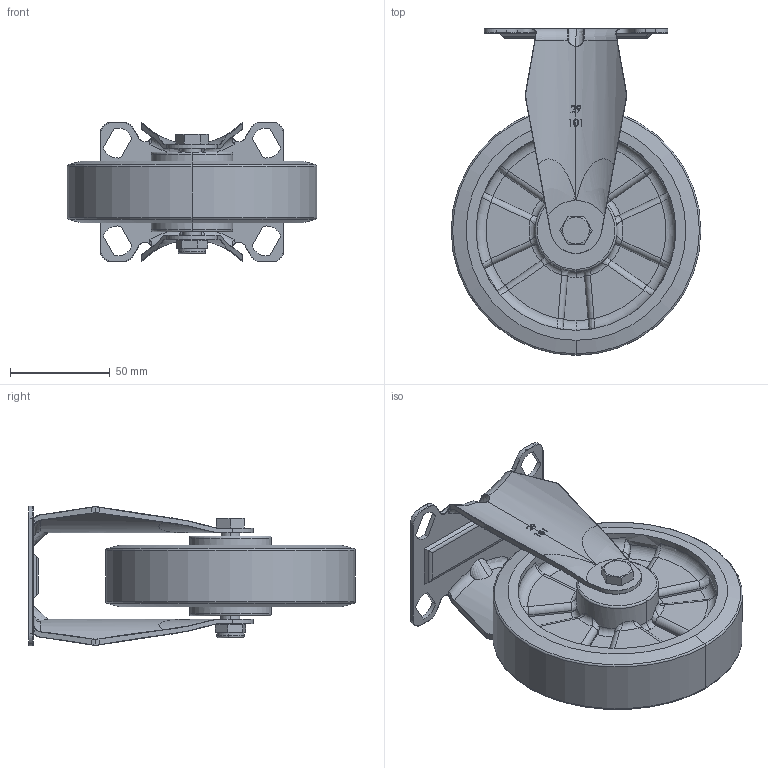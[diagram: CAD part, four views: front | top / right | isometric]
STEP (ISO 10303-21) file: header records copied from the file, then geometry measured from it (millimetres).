
FILE_DESCRIPTION (( 'STEP AP203' ), '1' );
FILE_NAME ('4112905001012.STEP', '2024-08-01T01:17:29', ( '' ), ( '' ), 'SwSTEP 2.0', 'SolidWorks 2019', '' );
FILE_SCHEMA (( 'CONFIG_CONTROL_DESIGN' ));
Length unit declared in the file: millimetre
Products named in the file (5): 4112905001012; 242020954001 4''''.5''''儀器.高級活動用車心 20240124A8; 245020900003 尼龍螺帽  3 8''''(對邊14x7L)_100406; 1235050042 W全效輪組(Resolute) 5''''(125x31-珠光深灰6202)平-42寬; 32129010500005 29系列固定架-電鍍 5''''(29-101)斜孔(孔距49x74.5)+2.3t
Assembly tree (4 placements, depth 2):
  4112905001012
    242020954001 4''''.5''''儀器.高級活動用車心 20240124A8
    245020900003 尼龍螺帽  3 8''''(對邊14x7L)_100406
    32129010500005 29系列固定架-電鍍 5''''(29-101)斜孔(孔距49x74.5)+2.3t
    1235050042 W全效輪組(Resolute) 5''''(125x31-珠光深灰6202)平-42寬
Bounding box: 125 x 163.5 x 70 mm (x, y, z)
Volume: 303087.8 mm3; surface area: 78423.7 mm2
Topology: 4 solids, 4 shells, 532 faces, 1373 edges, 840 vertices
Faces by surface type: bspline 152, cylinder 142, plane 108, torus 104, cone 16, sphere 10
Entity records: 27103 total; most frequent: CARTESIAN_POINT 14986, ORIENTED_EDGE 2698, DIRECTION 2136, EDGE_CURVE 1349, AXIS2_PLACEMENT_3D 916, VERTEX_POINT 840, EDGE_LOOP 563, FACE_OUTER_BOUND 532
